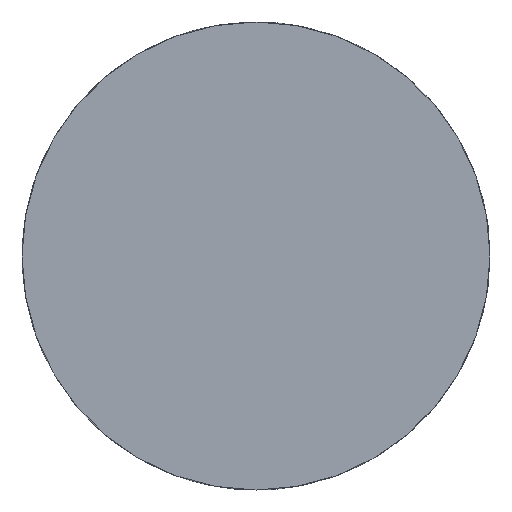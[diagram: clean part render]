
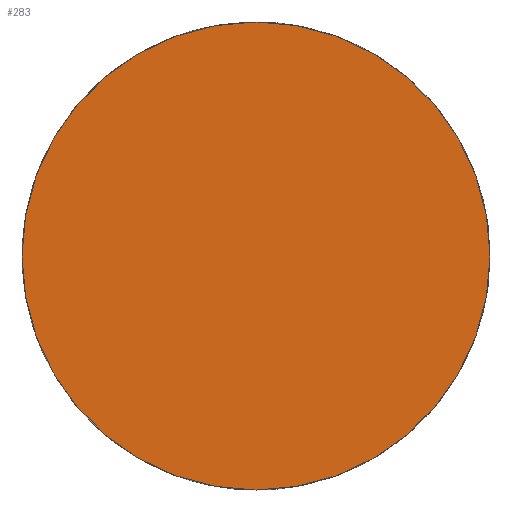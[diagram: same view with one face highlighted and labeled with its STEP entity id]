
A CAD part, left-side view. The second image highlights one B-rep face of the part: STEP entity #283.
In plain terms, the highlighted planar face has unit normal (-1, 0, 0).
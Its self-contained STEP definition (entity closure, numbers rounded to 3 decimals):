
#283 = ADVANCED_FACE( '', ( #638 ), #639, .F. );
#638 = FACE_OUTER_BOUND( '', #1063, .T. );
#639 = PLANE( '', #1064 );
#1063 = EDGE_LOOP( '', ( #1958 ) );
#1064 = AXIS2_PLACEMENT_3D( '', #1959, #1960, #1961 );
#1958 = ORIENTED_EDGE( '', *, *, #3059, .F. );
#1959 = CARTESIAN_POINT( '', ( 0., 0., 0. ) );
#1960 = DIRECTION( '', ( 1., 0., 0. ) );
#1961 = DIRECTION( '', ( 0., 0., -1. ) );
#3059 = EDGE_CURVE( '', #3862, #3862, #3863, .T. );
#3862 = VERTEX_POINT( '', #4856 );
#3863 = CIRCLE( '', #4857, 7.735 );
#4856 = CARTESIAN_POINT( '', ( 0., 0., -7.735 ) );
#4857 = AXIS2_PLACEMENT_3D( '', #5726, #5727, #5728 );
#5726 = CARTESIAN_POINT( '', ( 0., 0., 0. ) );
#5727 = DIRECTION( '', ( 1., 0., 0. ) );
#5728 = DIRECTION( '', ( 0., 0., -1. ) );
